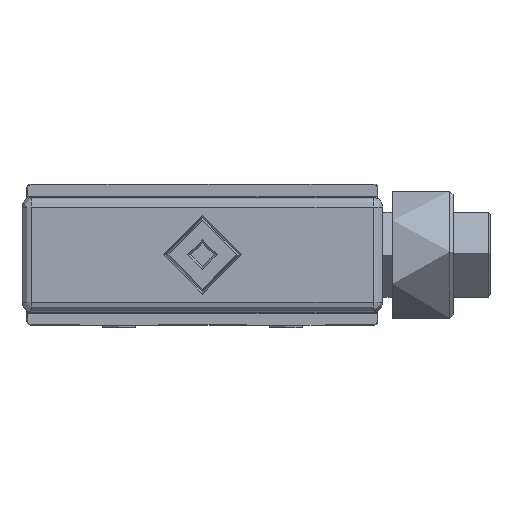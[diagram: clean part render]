
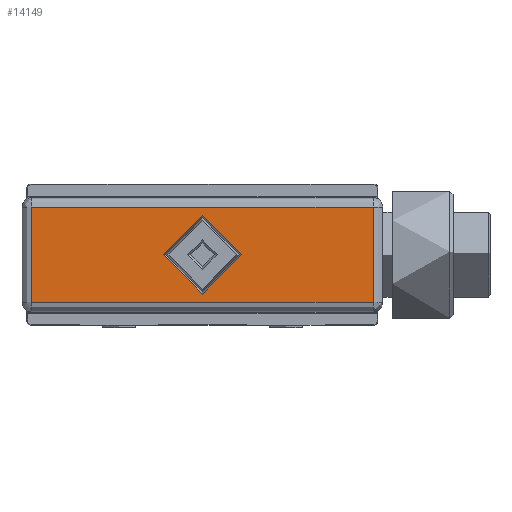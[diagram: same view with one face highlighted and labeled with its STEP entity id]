
A CAD part, front view. The second image highlights one B-rep face of the part: STEP entity #14149.
In plain terms, the highlighted planar face has unit normal (0, -1, 0).
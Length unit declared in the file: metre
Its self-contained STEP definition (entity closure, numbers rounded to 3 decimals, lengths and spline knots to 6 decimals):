
#13974=CARTESIAN_POINT('',(-0.042511,-0.033251,0.133441));
#13975=VERTEX_POINT('',#13974);
#14028=CARTESIAN_POINT('',(-0.042511,-0.033251,0.118941));
#14029=VERTEX_POINT('',#14028);
#14056=CARTESIAN_POINT('',(-0.042511,-0.033251,0.063741));
#14057=DIRECTION('',(0.,0.,1.));
#14058=VECTOR('',#14057,1.);
#14059=LINE('',#14056,#14058);
#14060=EDGE_CURVE('',#14029,#13975,#14059,.T.);
#14096=CARTESIAN_POINT('',(-0.016511,-0.033251,0.126191));
#14097=DIRECTION('',(0.,-1.,0.));
#14098=DIRECTION('',(0.,0.,-1.));
#14099=AXIS2_PLACEMENT_3D('',#14096,#14097,#14098);
#14100=CIRCLE('',#14099,0.006);
#14101=CARTESIAN_POINT('',(-0.016511,-0.033251,0.132191));
#14102=VERTEX_POINT('',#14101);
#14103=EDGE_CURVE('',#14102,#14102,#14100,.T.);
#14116=CARTESIAN_POINT('',(-0.044011,-0.033251,0.063741));
#14117=DIRECTION('',(0.,1.,0.));
#14118=DIRECTION('',(0.,0.,1.));
#14119=AXIS2_PLACEMENT_3D('',#14116,#14117,#14118);
#14120=PLANE('',#14119);
#14121=ORIENTED_EDGE('',*,*,#14103,.F.);
#14122=EDGE_LOOP('',(#14121));
#14123=FACE_BOUND('',#14122,.T.);
#14124=CARTESIAN_POINT('',(-0.044011,-0.033251,0.133441));
#14125=DIRECTION('',(1.,0.,0.));
#14126=VECTOR('',#14125,1.);
#14127=LINE('',#14124,#14126);
#14128=CARTESIAN_POINT('',(0.009489,-0.033251,0.133441));
#14129=VERTEX_POINT('',#14128);
#14130=EDGE_CURVE('',#13975,#14129,#14127,.T.);
#14131=ORIENTED_EDGE('',*,*,#14130,.F.);
#14132=ORIENTED_EDGE('',*,*,#14060,.F.);
#14133=CARTESIAN_POINT('',(-0.044011,-0.033251,0.118941));
#14134=DIRECTION('',(1.,0.,0.));
#14135=VECTOR('',#14134,1.);
#14136=LINE('',#14133,#14135);
#14137=CARTESIAN_POINT('',(0.009489,-0.033251,0.118941));
#14138=VERTEX_POINT('',#14137);
#14139=EDGE_CURVE('',#14029,#14138,#14136,.T.);
#14140=ORIENTED_EDGE('',*,*,#14139,.T.);
#14141=CARTESIAN_POINT('',(0.009489,-0.033251,0.063741));
#14142=DIRECTION('',(0.,0.,-1.));
#14143=VECTOR('',#14142,1.);
#14144=LINE('',#14141,#14143);
#14145=EDGE_CURVE('',#14129,#14138,#14144,.T.);
#14146=ORIENTED_EDGE('',*,*,#14145,.F.);
#14147=EDGE_LOOP('',(#14131,#14132,#14140,#14146));
#14148=FACE_BOUND('',#14147,.T.);
#14149=ADVANCED_FACE('',(#14123,#14148),#14120,.F.);
